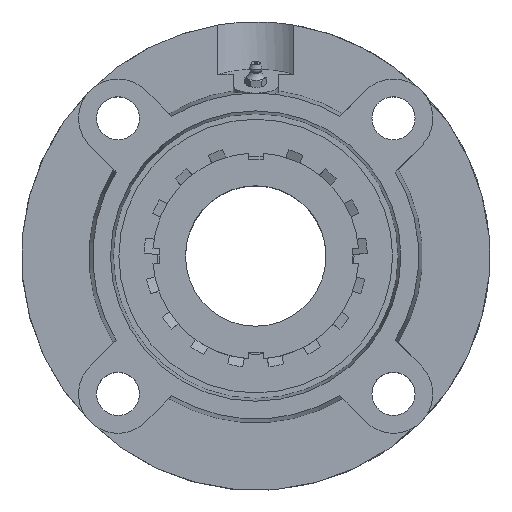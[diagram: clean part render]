
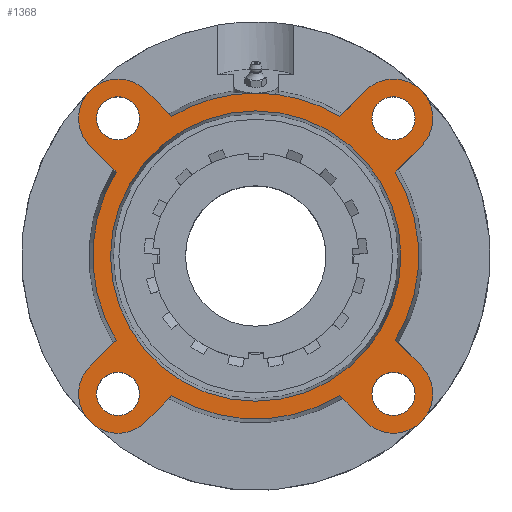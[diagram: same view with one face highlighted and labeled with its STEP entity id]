
A CAD part, top view. The second image highlights one B-rep face of the part: STEP entity #1368.
In plain terms, the highlighted planar face has unit normal (0, 0, 1).
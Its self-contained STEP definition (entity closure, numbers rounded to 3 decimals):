
#181=CARTESIAN_POINT('',(-62.039,-73.539,27.));
#182=VERTEX_POINT('',#181);
#183=CARTESIAN_POINT('',(-73.539,-73.539,27.));
#184=DIRECTION('',(0.0,0.0,-1.0));
#185=DIRECTION('',(1.0,0.0,0.0));
#186=AXIS2_PLACEMENT_3D('',#183,#184,#185);
#187=CIRCLE('',#186,11.5);
#188=EDGE_CURVE('',#182,#182,#187,.T.);
#209=CARTESIAN_POINT('',(-62.039,73.539,27.));
#210=VERTEX_POINT('',#209);
#211=CARTESIAN_POINT('',(-73.539,73.539,27.));
#212=DIRECTION('',(0.0,0.0,-1.0));
#213=DIRECTION('',(1.0,0.0,0.0));
#214=AXIS2_PLACEMENT_3D('',#211,#212,#213);
#215=CIRCLE('',#214,11.5);
#216=EDGE_CURVE('',#210,#210,#215,.T.);
#237=CARTESIAN_POINT('',(85.039,73.539,27.));
#238=VERTEX_POINT('',#237);
#239=CARTESIAN_POINT('',(73.539,73.539,27.));
#240=DIRECTION('',(0.0,0.0,-1.0));
#241=DIRECTION('',(1.0,0.0,0.0));
#242=AXIS2_PLACEMENT_3D('',#239,#240,#241);
#243=CIRCLE('',#242,11.5);
#244=EDGE_CURVE('',#238,#238,#243,.T.);
#265=CARTESIAN_POINT('',(85.039,-73.539,27.));
#266=VERTEX_POINT('',#265);
#267=CARTESIAN_POINT('',(73.539,-73.539,27.));
#268=DIRECTION('',(0.0,0.0,-1.0));
#269=DIRECTION('',(1.0,0.0,0.0));
#270=AXIS2_PLACEMENT_3D('',#267,#268,#269);
#271=CIRCLE('',#270,11.5);
#272=EDGE_CURVE('',#266,#266,#271,.T.);
#373=CARTESIAN_POINT('',(0.0,77.5,27.));
#374=VERTEX_POINT('',#373);
#375=CARTESIAN_POINT('',(0.0,0.,27.0));
#376=DIRECTION('',(0.0,0.0,-1.0));
#377=DIRECTION('',(0.0,1.0,0.0));
#378=AXIS2_PLACEMENT_3D('',#375,#376,#377);
#379=CIRCLE('',#378,77.5);
#380=EDGE_CURVE('',#374,#374,#379,.T.);
#666=CARTESIAN_POINT('',(0.,87.,27.));
#667=VERTEX_POINT('',#666);
#824=CARTESIAN_POINT('',(-44.85,74.548,27.));
#825=VERTEX_POINT('',#824);
#839=CARTESIAN_POINT('',(0.0,0.,27.0));
#840=DIRECTION('',(0.0,0.0,1.0));
#841=DIRECTION('',(0.0,-1.0,0.0));
#842=AXIS2_PLACEMENT_3D('',#839,#840,#841);
#843=CIRCLE('',#842,87.);
#844=EDGE_CURVE('',#667,#825,#843,.T.);
#854=CARTESIAN_POINT('',(-44.85,-74.548,27.));
#855=VERTEX_POINT('',#854);
#871=CARTESIAN_POINT('',(-58.69,-88.388,27.));
#872=VERTEX_POINT('',#871);
#873=CARTESIAN_POINT('',(-44.85,-74.548,27.));
#874=DIRECTION('',(-0.707,-0.707,0.));
#875=VECTOR('',#874,19.573);
#876=LINE('',#873,#875);
#877=EDGE_CURVE('',#855,#872,#876,.T.);
#901=CARTESIAN_POINT('',(-74.548,44.85,27.));
#902=VERTEX_POINT('',#901);
#918=CARTESIAN_POINT('',(-88.388,58.69,27.));
#919=VERTEX_POINT('',#918);
#920=CARTESIAN_POINT('',(-74.548,44.85,27.));
#921=DIRECTION('',(-0.707,0.707,0.));
#922=VECTOR('',#921,19.573);
#923=LINE('',#920,#922);
#924=EDGE_CURVE('',#902,#919,#923,.T.);
#948=CARTESIAN_POINT('',(74.548,-44.85,27.));
#949=VERTEX_POINT('',#948);
#965=CARTESIAN_POINT('',(88.388,-58.69,27.));
#966=VERTEX_POINT('',#965);
#967=CARTESIAN_POINT('',(74.548,-44.85,27.));
#968=DIRECTION('',(0.707,-0.707,0.));
#969=VECTOR('',#968,19.573);
#970=LINE('',#967,#969);
#971=EDGE_CURVE('',#949,#966,#970,.T.);
#995=CARTESIAN_POINT('',(44.85,74.548,27.));
#996=VERTEX_POINT('',#995);
#1010=CARTESIAN_POINT('',(58.69,88.388,27.));
#1011=VERTEX_POINT('',#1010);
#1012=CARTESIAN_POINT('',(44.85,74.548,27.));
#1013=DIRECTION('',(0.707,0.707,0.));
#1014=VECTOR('',#1013,19.573);
#1015=LINE('',#1012,#1014);
#1016=EDGE_CURVE('',#996,#1011,#1015,.T.);
#1035=CARTESIAN_POINT('',(74.548,44.85,27.));
#1036=VERTEX_POINT('',#1035);
#1058=CARTESIAN_POINT('',(88.388,58.69,27.));
#1059=VERTEX_POINT('',#1058);
#1066=CARTESIAN_POINT('',(88.388,58.69,27.));
#1067=DIRECTION('',(-0.707,-0.707,0.));
#1068=VECTOR('',#1067,19.573);
#1069=LINE('',#1066,#1068);
#1070=EDGE_CURVE('',#1059,#1036,#1069,.T.);
#1080=CARTESIAN_POINT('',(-88.388,-58.69,27.));
#1081=VERTEX_POINT('',#1080);
#1082=CARTESIAN_POINT('',(-73.539,-73.539,27.));
#1083=DIRECTION('',(0.0,0.0,-1.0));
#1084=DIRECTION('',(-0.707,0.707,0.0));
#1085=AXIS2_PLACEMENT_3D('',#1082,#1083,#1084);
#1086=CIRCLE('',#1085,21.);
#1087=EDGE_CURVE('',#872,#1081,#1086,.T.);
#1122=CARTESIAN_POINT('',(-74.548,-44.85,27.));
#1123=VERTEX_POINT('',#1122);
#1144=CARTESIAN_POINT('',(-88.388,-58.69,27.));
#1145=DIRECTION('',(0.707,0.707,0.));
#1146=VECTOR('',#1145,19.573);
#1147=LINE('',#1144,#1146);
#1148=EDGE_CURVE('',#1081,#1123,#1147,.T.);
#1158=CARTESIAN_POINT('',(-58.69,88.388,27.));
#1159=VERTEX_POINT('',#1158);
#1160=CARTESIAN_POINT('',(-73.539,73.539,27.));
#1161=DIRECTION('',(0.0,0.0,-1.0));
#1162=DIRECTION('',(0.707,0.707,0.0));
#1163=AXIS2_PLACEMENT_3D('',#1160,#1161,#1162);
#1164=CIRCLE('',#1163,21.);
#1165=EDGE_CURVE('',#919,#1159,#1164,.T.);
#1193=CARTESIAN_POINT('',(-58.69,88.388,27.));
#1194=DIRECTION('',(0.707,-0.707,0.));
#1195=VECTOR('',#1194,19.573);
#1196=LINE('',#1193,#1195);
#1197=EDGE_CURVE('',#1159,#825,#1196,.T.);
#1207=CARTESIAN_POINT('',(58.69,-88.388,27.));
#1208=VERTEX_POINT('',#1207);
#1209=CARTESIAN_POINT('',(73.539,-73.539,27.));
#1210=DIRECTION('',(0.0,0.0,-1.0));
#1211=DIRECTION('',(-0.707,-0.707,0.0));
#1212=AXIS2_PLACEMENT_3D('',#1209,#1210,#1211);
#1213=CIRCLE('',#1212,21.);
#1214=EDGE_CURVE('',#966,#1208,#1213,.T.);
#1249=CARTESIAN_POINT('',(44.85,-74.548,27.));
#1250=VERTEX_POINT('',#1249);
#1271=CARTESIAN_POINT('',(58.69,-88.388,27.));
#1272=DIRECTION('',(-0.707,0.707,0.));
#1273=VECTOR('',#1272,19.573);
#1274=LINE('',#1271,#1273);
#1275=EDGE_CURVE('',#1208,#1250,#1274,.T.);
#1285=CARTESIAN_POINT('',(73.539,73.539,27.));
#1286=DIRECTION('',(0.0,0.0,-1.0));
#1287=DIRECTION('',(0.707,-0.707,0.0));
#1288=AXIS2_PLACEMENT_3D('',#1285,#1286,#1287);
#1289=CIRCLE('',#1288,21.);
#1290=EDGE_CURVE('',#1011,#1059,#1289,.T.);
#1305=CARTESIAN_POINT('',(0.0,-43.5,27.));
#1306=DIRECTION('',(0.0,0.0,1.0));
#1307=DIRECTION('',(1.0,0.0,0.0));
#1308=AXIS2_PLACEMENT_3D('',#1305,#1306,#1307);
#1309=PLANE('',#1308);
#1310=CARTESIAN_POINT('',(0.0,0.,27.0));
#1311=DIRECTION('',(0.0,0.0,1.0));
#1312=DIRECTION('',(0.0,-1.0,0.0));
#1313=AXIS2_PLACEMENT_3D('',#1310,#1311,#1312);
#1314=CIRCLE('',#1313,87.);
#1315=EDGE_CURVE('',#855,#1250,#1314,.T.);
#1316=ORIENTED_EDGE('',*,*,#1315,.T.);
#1317=ORIENTED_EDGE('',*,*,#1275,.F.);
#1318=ORIENTED_EDGE('',*,*,#1214,.F.);
#1319=ORIENTED_EDGE('',*,*,#971,.F.);
#1320=CARTESIAN_POINT('',(0.0,0.,27.0));
#1321=DIRECTION('',(0.0,0.0,1.0));
#1322=DIRECTION('',(0.0,-1.0,0.0));
#1323=AXIS2_PLACEMENT_3D('',#1320,#1321,#1322);
#1324=CIRCLE('',#1323,87.);
#1325=EDGE_CURVE('',#949,#1036,#1324,.T.);
#1326=ORIENTED_EDGE('',*,*,#1325,.T.);
#1327=ORIENTED_EDGE('',*,*,#1070,.F.);
#1328=ORIENTED_EDGE('',*,*,#1290,.F.);
#1329=ORIENTED_EDGE('',*,*,#1016,.F.);
#1330=CARTESIAN_POINT('',(0.0,0.,27.0));
#1331=DIRECTION('',(0.0,0.0,1.0));
#1332=DIRECTION('',(0.0,-1.0,0.0));
#1333=AXIS2_PLACEMENT_3D('',#1330,#1331,#1332);
#1334=CIRCLE('',#1333,87.);
#1335=EDGE_CURVE('',#996,#667,#1334,.T.);
#1336=ORIENTED_EDGE('',*,*,#1335,.T.);
#1337=ORIENTED_EDGE('',*,*,#844,.T.);
#1338=ORIENTED_EDGE('',*,*,#1197,.F.);
#1339=ORIENTED_EDGE('',*,*,#1165,.F.);
#1340=ORIENTED_EDGE('',*,*,#924,.F.);
#1341=CARTESIAN_POINT('',(0.0,0.,27.0));
#1342=DIRECTION('',(0.0,0.0,1.0));
#1343=DIRECTION('',(0.0,-1.0,0.0));
#1344=AXIS2_PLACEMENT_3D('',#1341,#1342,#1343);
#1345=CIRCLE('',#1344,87.);
#1346=EDGE_CURVE('',#902,#1123,#1345,.T.);
#1347=ORIENTED_EDGE('',*,*,#1346,.T.);
#1348=ORIENTED_EDGE('',*,*,#1148,.F.);
#1349=ORIENTED_EDGE('',*,*,#1087,.F.);
#1350=ORIENTED_EDGE('',*,*,#877,.F.);
#1351=EDGE_LOOP('',(#1316,#1317,#1318,#1319,#1326,#1327,#1328,#1329,#1336,#1337,#1338,#1339,#1340,#1347,#1348,#1349,#1350));
#1352=FACE_OUTER_BOUND('',#1351,.T.);
#1353=ORIENTED_EDGE('',*,*,#188,.T.);
#1354=EDGE_LOOP('',(#1353));
#1355=FACE_BOUND('',#1354,.T.);
#1356=ORIENTED_EDGE('',*,*,#216,.T.);
#1357=EDGE_LOOP('',(#1356));
#1358=FACE_BOUND('',#1357,.T.);
#1359=ORIENTED_EDGE('',*,*,#244,.T.);
#1360=EDGE_LOOP('',(#1359));
#1361=FACE_BOUND('',#1360,.T.);
#1362=ORIENTED_EDGE('',*,*,#272,.T.);
#1363=EDGE_LOOP('',(#1362));
#1364=FACE_BOUND('',#1363,.T.);
#1365=ORIENTED_EDGE('',*,*,#380,.T.);
#1366=EDGE_LOOP('',(#1365));
#1367=FACE_BOUND('',#1366,.T.);
#1368=ADVANCED_FACE('',(#1352,#1355,#1358,#1361,#1364,#1367),#1309,.T.);
